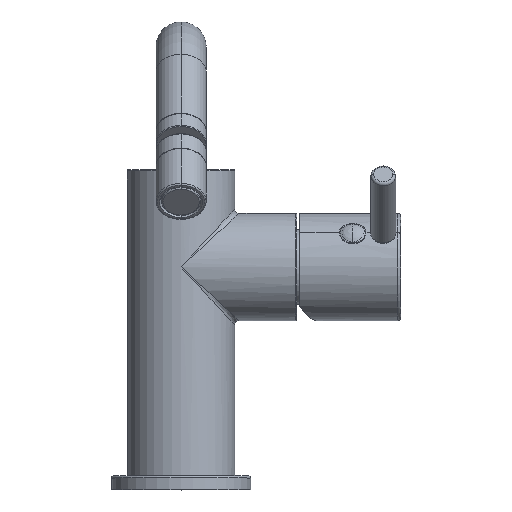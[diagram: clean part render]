
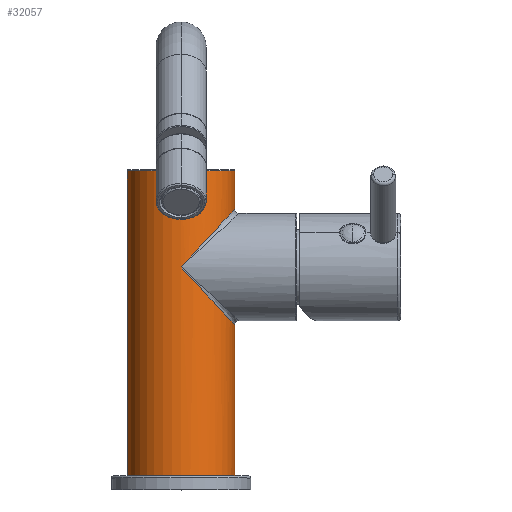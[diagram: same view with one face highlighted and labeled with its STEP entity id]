
A CAD part, top view. The second image highlights one B-rep face of the part: STEP entity #32057.
In plain terms, the highlighted cylindrical face has radius 19.25 mm (diameter 38.5 mm), a partial arc.
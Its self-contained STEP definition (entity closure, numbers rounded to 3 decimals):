
#6076=CARTESIAN_POINT('',(19.25,54.25,
0.));
#6373=CARTESIAN_POINT('',(0.,0.,0.));
#6374=DIRECTION('',(0.,-1.,0.));
#6375=DIRECTION('',(1.,0.,0.));
#6376=AXIS2_PLACEMENT_3D('',#6373,#6374,#6375);
#6378=DIRECTION('',(0.,-1.,0.));
#6379=VECTOR('',#6378,109.5);
#6380=CARTESIAN_POINT('',(-19.25,109.5,0.));
#6381=LINE('',#6380,#6379);
#6382=CARTESIAN_POINT('',(0.,109.5,0.));
#6383=DIRECTION('',(0.,-1.,0.));
#6384=DIRECTION('',(1.,0.,0.));
#6385=AXIS2_PLACEMENT_3D('',#6382,#6383,#6384);
#6387=DIRECTION('',(0.,-1.,0.));
#6388=VECTOR('',#6387,13.75);
#6389=CARTESIAN_POINT('',(19.25,109.5,0.));
#6390=LINE('',#6389,#6388);
#6391=CARTESIAN_POINT('',(19.25,95.75,
0.));
#6392=CARTESIAN_POINT('',(19.25,95.75,0.218));
#6393=CARTESIAN_POINT('',(19.243,95.742,0.655));
#6394=CARTESIAN_POINT('',(19.209,95.706,1.313));
#6395=CARTESIAN_POINT('',(19.152,95.645,1.974));
#6396=CARTESIAN_POINT('',(19.072,95.558,2.639));
#6397=CARTESIAN_POINT('',(18.968,95.446,3.306));
#6398=CARTESIAN_POINT('',(18.839,95.307,3.975));
#6399=CARTESIAN_POINT('',(18.685,95.141,4.646));
#6400=CARTESIAN_POINT('',(18.505,94.947,5.318));
#6401=CARTESIAN_POINT('',(18.299,94.724,5.991));
#6402=CARTESIAN_POINT('',(18.064,94.471,6.666));
#6403=CARTESIAN_POINT('',(17.8,94.187,7.341));
#6404=CARTESIAN_POINT('',(17.506,93.87,8.018));
#6405=CARTESIAN_POINT('',(17.18,93.519,8.694));
#6406=CARTESIAN_POINT('',(16.822,93.132,9.37));
#6407=CARTESIAN_POINT('',(16.429,92.709,10.043));
#6408=CARTESIAN_POINT('',(16.,92.247,10.713));
#6409=CARTESIAN_POINT('',(15.534,91.745,11.379));
#6410=CARTESIAN_POINT('',(15.03,91.201,12.038));
#6411=CARTESIAN_POINT('',(14.485,90.614,12.688));
#6412=CARTESIAN_POINT('',(13.9,89.984,13.327));
#6413=CARTESIAN_POINT('',(13.275,89.309,13.95));
#6414=CARTESIAN_POINT('',(12.609,88.591,14.555));
#6415=CARTESIAN_POINT('',(11.901,87.829,15.14));
#6416=CARTESIAN_POINT('',(11.15,87.019,15.702));
#6417=CARTESIAN_POINT('',(10.352,86.159,16.239));
#6418=CARTESIAN_POINT('',(9.507,85.248,16.749));
#6419=CARTESIAN_POINT('',(8.625,84.298,17.219));
#6420=CARTESIAN_POINT('',(7.719,83.321,17.644));
#6421=CARTESIAN_POINT('',(6.802,82.332,18.017));
#6422=CARTESIAN_POINT('',(5.878,81.336,18.339));
#6423=CARTESIAN_POINT('',(4.939,80.324,18.614));
#6424=CARTESIAN_POINT('',(3.981,79.292,18.842));
#6425=CARTESIAN_POINT('',(2.997,78.231,19.024));
#6426=CARTESIAN_POINT('',(1.997,77.152,19.155));
#6427=CARTESIAN_POINT('',(0.991,76.069,19.233));
#6428=CARTESIAN_POINT('',(0.33,75.355,19.25));
#6429=CARTESIAN_POINT('',(0.,75.,19.25));
#6431=CARTESIAN_POINT('',(0.,75.,19.25));
#6432=CARTESIAN_POINT('',(0.33,74.645,19.25));
#6433=CARTESIAN_POINT('',(0.991,73.931,19.233));
#6434=CARTESIAN_POINT('',(1.997,72.848,19.155));
#6435=CARTESIAN_POINT('',(2.998,71.769,19.024));
#6436=CARTESIAN_POINT('',(3.982,70.708,18.842));
#6437=CARTESIAN_POINT('',(4.94,69.675,18.614));
#6438=CARTESIAN_POINT('',(5.879,68.663,18.339));
#6439=CARTESIAN_POINT('',(6.803,67.667,18.017));
#6440=CARTESIAN_POINT('',(7.72,66.679,17.644));
#6441=CARTESIAN_POINT('',(8.626,65.702,17.219));
#6442=CARTESIAN_POINT('',(9.507,64.752,16.748));
#6443=CARTESIAN_POINT('',(10.353,63.841,16.239));
#6444=CARTESIAN_POINT('',(11.15,62.981,15.701));
#6445=CARTESIAN_POINT('',(11.902,62.171,15.139));
#6446=CARTESIAN_POINT('',(12.609,61.408,14.555));
#6447=CARTESIAN_POINT('',(13.275,60.69,13.95));
#6448=CARTESIAN_POINT('',(13.901,60.016,13.326));
#6449=CARTESIAN_POINT('',(14.486,59.386,12.688));
#6450=CARTESIAN_POINT('',(15.03,58.799,12.037));
#6451=CARTESIAN_POINT('',(15.534,58.255,11.378));
#6452=CARTESIAN_POINT('',(16.,57.753,10.713));
#6453=CARTESIAN_POINT('',(16.429,57.291,10.043));
#6454=CARTESIAN_POINT('',(16.822,56.867,9.37));
#6455=CARTESIAN_POINT('',(17.18,56.481,8.694));
#6456=CARTESIAN_POINT('',(17.506,56.13,8.017));
#6457=CARTESIAN_POINT('',(17.8,55.813,7.341));
#6458=CARTESIAN_POINT('',(18.064,55.528,6.665));
#6459=CARTESIAN_POINT('',(18.299,55.275,5.991));
#6460=CARTESIAN_POINT('',(18.505,55.053,5.317));
#6461=CARTESIAN_POINT('',(18.685,54.859,4.645));
#6462=CARTESIAN_POINT('',(18.839,54.693,3.974));
#6463=CARTESIAN_POINT('',(18.968,54.554,3.305));
#6464=CARTESIAN_POINT('',(19.072,54.442,2.639));
#6465=CARTESIAN_POINT('',(19.152,54.355,1.974));
#6466=CARTESIAN_POINT('',(19.209,54.294,1.313));
#6467=CARTESIAN_POINT('',(19.243,54.258,0.655));
#6468=CARTESIAN_POINT('',(19.25,54.25,0.218));
#6469=CARTESIAN_POINT('',(19.25,54.25,
0.));
#6471=DIRECTION('',(0.,-1.,0.));
#6472=VECTOR('',#6471,54.25);
#6473=CARTESIAN_POINT('',(19.25,54.25,
0.));
#6474=LINE('',#6473,#6472);
#21662=VERTEX_POINT('',#6391);
#21663=VERTEX_POINT('',#6429);
#21666=VERTEX_POINT('',#6076);
#21668=CARTESIAN_POINT('',(-19.25,109.5,0.));
#21669=CARTESIAN_POINT('',(19.25,109.5,0.));
#21670=VERTEX_POINT('',#21668);
#21671=VERTEX_POINT('',#21669);
#22253=CARTESIAN_POINT('',(-19.25,0.,0.));
#22254=CARTESIAN_POINT('',(19.25,0.,0.));
#22255=VERTEX_POINT('',#22253);
#22256=VERTEX_POINT('',#22254);
#32040=CARTESIAN_POINT('',(0.,115.5,0.));
#32041=DIRECTION('',(0.,-1.,0.));
#32042=DIRECTION('',(-1.,0.,0.));
#32043=AXIS2_PLACEMENT_3D('',#32040,#32041,#32042);
#32044=CYLINDRICAL_SURFACE('',#32043,19.25);
#32045=ORIENTED_EDGE('',*,*,#32002,.T.);
#32046=ORIENTED_EDGE('',*,*,#32022,.F.);
#32048=ORIENTED_EDGE('',*,*,#32047,.F.);
#32049=ORIENTED_EDGE('',*,*,#32018,.T.);
#32051=ORIENTED_EDGE('',*,*,#32050,.T.);
#32053=ORIENTED_EDGE('',*,*,#32052,.T.);
#32054=ORIENTED_EDGE('',*,*,#32012,.T.);
#32055=EDGE_LOOP('',(#32045,#32046,#32048,#32049,#32051,#32053,#32054));
#32056=FACE_OUTER_BOUND('',#32055,.F.);
#32057=ADVANCED_FACE('',(#32056),#32044,.T.);
#6377=CIRCLE('',#6376,19.25);
#6386=CIRCLE('',#6385,19.25);
#6430=B_SPLINE_CURVE_WITH_KNOTS('',3,(#6391,#6392,#6393,#6394,#6395,#6396,#6397,
#6398,#6399,#6400,#6401,#6402,#6403,#6404,#6405,#6406,#6407,#6408,#6409,#6410,
#6411,#6412,#6413,#6414,#6415,#6416,#6417,#6418,#6419,#6420,#6421,#6422,#6423,
#6424,#6425,#6426,#6427,#6428,#6429),.UNSPECIFIED.,.F.,.F.,(4,1,1,1,1,1,1,1,1,1,
1,1,1,1,1,1,1,1,1,1,1,1,1,1,1,1,1,1,1,1,1,1,1,1,1,1,4),(0.,0.028,
0.056,0.083,0.111,0.139,
0.167,0.194,0.222,0.25,0.278,
0.306,0.333,0.361,0.389,
0.417,0.444,0.472,0.5,0.528,
0.556,0.583,0.611,0.639,
0.667,0.694,0.722,0.75,0.778,
0.806,0.833,0.861,0.889,
0.917,0.944,0.972,1.),.UNSPECIFIED.);
#6470=B_SPLINE_CURVE_WITH_KNOTS('',3,(#6431,#6432,#6433,#6434,#6435,#6436,#6437,
#6438,#6439,#6440,#6441,#6442,#6443,#6444,#6445,#6446,#6447,#6448,#6449,#6450,
#6451,#6452,#6453,#6454,#6455,#6456,#6457,#6458,#6459,#6460,#6461,#6462,#6463,
#6464,#6465,#6466,#6467,#6468,#6469),.UNSPECIFIED.,.F.,.F.,(4,1,1,1,1,1,1,1,1,1,
1,1,1,1,1,1,1,1,1,1,1,1,1,1,1,1,1,1,1,1,1,1,1,1,1,1,4),(0.,0.028,
0.056,0.083,0.111,0.139,
0.167,0.194,0.222,0.25,0.278,
0.306,0.333,0.361,0.389,
0.417,0.444,0.472,0.5,0.528,
0.556,0.583,0.611,0.639,
0.667,0.694,0.722,0.75,0.778,
0.806,0.833,0.861,0.889,
0.917,0.944,0.972,1.),.UNSPECIFIED.);
#32002=EDGE_CURVE('',#22256,#22255,#6377,.T.);
#32012=EDGE_CURVE('',#21666,#22256,#6474,.T.);
#32018=EDGE_CURVE('',#21671,#21662,#6390,.T.);
#32022=EDGE_CURVE('',#21670,#22255,#6381,.T.);
#32047=EDGE_CURVE('',#21671,#21670,#6386,.T.);
#32050=EDGE_CURVE('',#21662,#21663,#6430,.T.);
#32052=EDGE_CURVE('',#21663,#21666,#6470,.T.);
